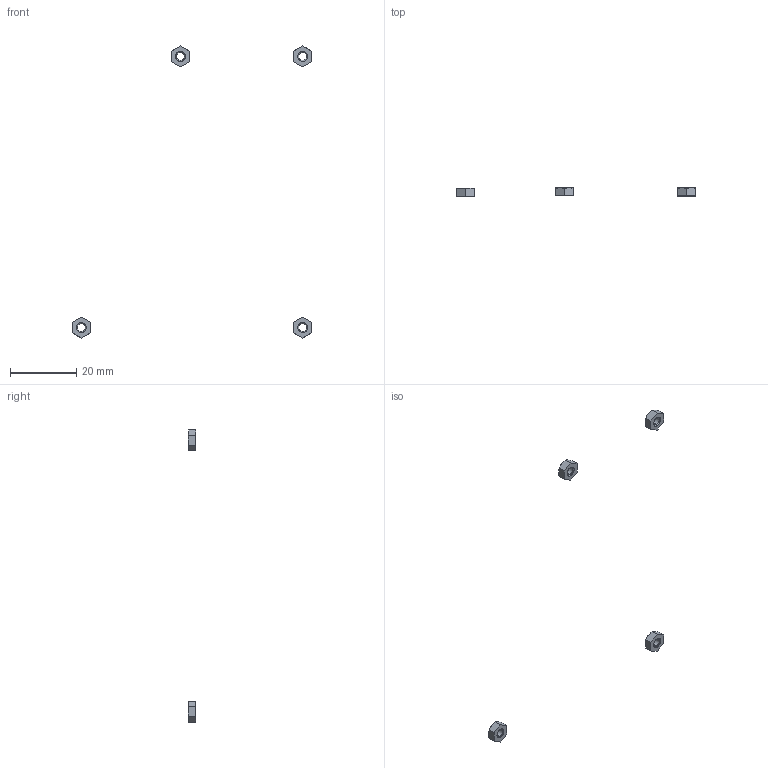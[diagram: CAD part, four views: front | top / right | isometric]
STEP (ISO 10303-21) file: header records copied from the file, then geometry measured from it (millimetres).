
FILE_DESCRIPTION(/* description */ (''),/* implementation_level */ '2;1');
FILE_NAME(/* name */ '1.frame-bottom#1.6#LBNR3',/* time_stamp */ '2014-12-01T20:11:26+01:00',/* author */ (''),/* organization */ (''),/* preprocessor_version */ 'ST-DEVELOPER v14',/* originating_system */ '',/* authorisation */ '');
FILE_SCHEMA (('AUTOMOTIVE_DESIGN'));
Length unit declared in the file: millimetre
Products named in the file (1): Document
Bounding box: 72.5 x 2.4 x 88.35 mm (x, y, z)
Volume: 202.7 mm3; surface area: 414.7 mm2
Topology: 4 solids, 4 shells, 88 faces, 192 edges, 112 vertices
Faces by surface type: bspline 56, plane 32
Entity records: 5359 total; most frequent: CARTESIAN_POINT 2897, ORIENTED_EDGE 384, PCURVE 384, DEFINITIONAL_REPRESENTATION 384, B_SPLINE_CURVE_WITH_KNOTS 368, SURFACE_CURVE 192, EDGE_CURVE 192, VERTEX_POINT 112
